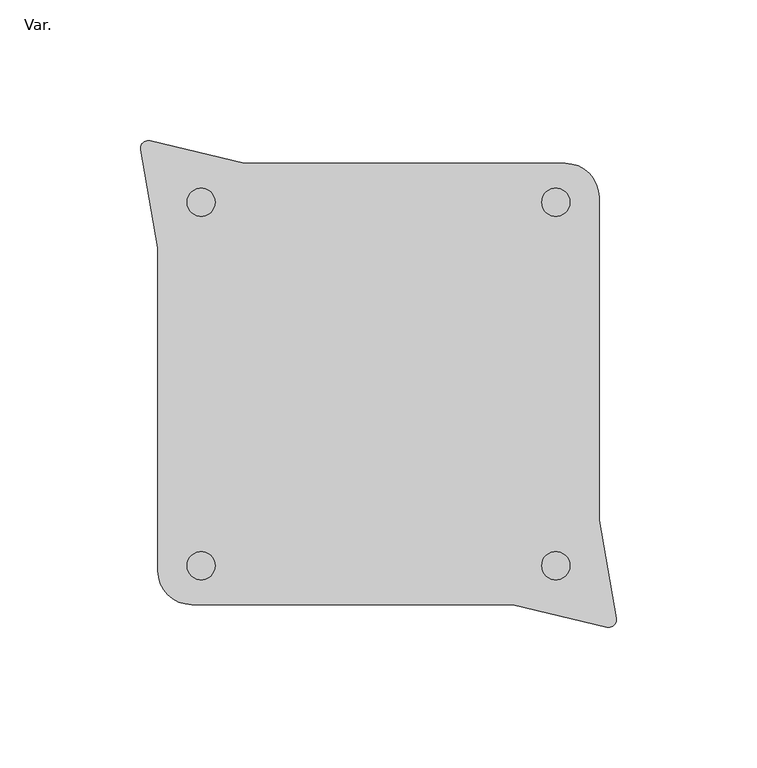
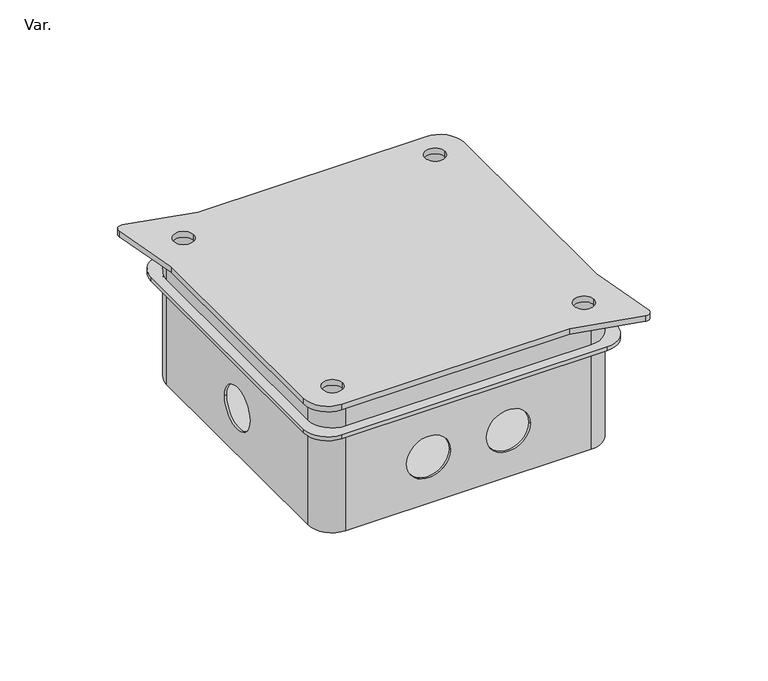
"""IFC4 building model written with IfcOpenShell, lengths in millimetres: cable carrier fitting geometry, PlastigamaWavin_Unionesdetubo_ConduitCaja15x15 : Var.."""

import ifcopenshell
import ifcopenshell.guid

model = None  # the IFC model being written
_history = None  # IfcOwnerHistory: only IFC2X3 demands one
_inside = {}  # id of a spatial element -> (the spatial element, [elements in it])
_under = {}  # id of a project, library or spatial element -> (it, [spatial elements below it])
_declared = {}  # id of a project -> (the project, [libraries it declares])
_typed = {}  # id of a type object -> (the type object, [elements of that type])
_made_of = {}  # id of a material, layer set ... -> (it, [elements and type objects made of it])


def new_model(schema):
    """Start an empty IFC model of exactly this schema.

    Asked for "IFC4X3", IfcOpenShell would pick the latest addendum, in which some entities
    have other attributes; the version numbers below select the first issue.
    IFC2X3 requires an IfcOwnerHistory on every rooted entity: one is made here for all.
    """
    global model, _history
    if schema == "IFC4X3":
        model = ifcopenshell.file(schema_version=(4, 3, 0, 0))
    else:
        model = ifcopenshell.file(schema=schema)
    _inside.clear()
    _under.clear()
    _declared.clear()
    _typed.clear()
    _made_of.clear()
    _history = None
    if model.schema == "IFC2X3":
        org = make("IfcOrganization", Name="unknown")
        user = make(
            "IfcPersonAndOrganization",
            ThePerson=make("IfcPerson", FamilyName="unknown"),
            TheOrganization=org,
        )
        app = make(
            "IfcApplication",
            ApplicationDeveloper=org,
            Version="unknown",
            ApplicationFullName="unknown",
            ApplicationIdentifier="unknown",
        )
        _history = make(
            "IfcOwnerHistory",
            OwningUser=user,
            OwningApplication=app,
            ChangeAction="ADDED",
            CreationDate=0,
        )
    return model


def make(cls, **values):
    """One entity of the class cls with the attributes given. An attribute that is None is left unset."""
    return model.create_entity(
        cls, **{name: value for name, value in values.items() if value is not None}
    )


def rooted(cls, **values):
    """An entity with a GlobalId (a new one), such as an element, a storey or a relation."""
    return make(cls, GlobalId=ifcopenshell.guid.new(), OwnerHistory=_history, **values)


def si_unit(unit_type, name, prefix=None):
    """IfcSIUnit, for example si_unit("LENGTHUNIT", "METRE", prefix="MILLI")."""
    return make("IfcSIUnit", UnitType=unit_type, Prefix=prefix, Name=name)


def assignment(units):
    """IfcUnitAssignment: the units of a project."""
    return None if units is None else make("IfcUnitAssignment", Units=units)


def point(xyz):
    """IfcCartesianPoint."""
    return None if xyz is None else make("IfcCartesianPoint", Coordinates=xyz)


def direction(xyz):
    """IfcDirection."""
    return None if xyz is None else make("IfcDirection", DirectionRatios=xyz)


def frame(location, z_axis=None, x_axis=None):
    """IfcAxis2Placement3D, a coordinate frame: its origin and axes. An axis left out is left unset."""
    return make(
        "IfcAxis2Placement3D",
        Location=point(location),
        Axis=direction(z_axis),
        RefDirection=direction(x_axis),
    )


def frame_2d(location, x_axis=None):
    """IfcAxis2Placement2D, a coordinate frame in the plane: its origin and x axis."""
    return make(
        "IfcAxis2Placement2D", Location=point(location), RefDirection=direction(x_axis)
    )


def origin():
    """The frame at (0, 0, 0) with its axes left unset."""
    return frame((0.0, 0.0, 0.0))


def place(relative_to, where):
    """IfcLocalPlacement: puts the frame where relative to a parent placement (None: the world)."""
    return make(
        "IfcLocalPlacement", PlacementRelTo=relative_to, RelativePlacement=where
    )


def context(
    kind, dimensions, precision=None, world=None, true_north=None, identifier=None
):
    """IfcGeometricRepresentationContext, for example the 3D "Model" context."""
    return make(
        "IfcGeometricRepresentationContext",
        ContextIdentifier=identifier,
        ContextType=kind,
        CoordinateSpaceDimension=dimensions,
        Precision=precision,
        WorldCoordinateSystem=world,
        TrueNorth=true_north,
    )


def project(units=None, contexts=None):
    """IfcProject with its units and contexts."""
    return rooted(
        "IfcProject",
        Name="project",
        RepresentationContexts=contexts,
        UnitsInContext=assignment(units),
    )


def spatial(cls, under=None, at=None, **own):
    """A site, building, storey or space (cls), placed at a placement, below another one or the project."""
    s = rooted(cls, ObjectPlacement=at, **own)
    if under is not None:
        _under.setdefault(under.id(), (under, []))[1].append(s)
    return s


def polyline(points):
    """IfcPolyline through the points."""
    return make("IfcPolyline", Points=[point(p) for p in points])


def circle_curve(where, radius):
    """IfcCircle in the frame where."""
    return make("IfcCircle", Position=where, Radius=radius)


def trimmed(basis, trim1, trim2, sense, master):
    """IfcTrimmedCurve: the piece of a basis curve between two trims."""
    return make(
        "IfcTrimmedCurve",
        BasisCurve=basis,
        Trim1=trim1,
        Trim2=trim2,
        SenseAgreement=sense,
        MasterRepresentation=master,
    )


def segment(curve, same_sense, transition):
    """IfcCompositeCurveSegment."""
    return make(
        "IfcCompositeCurveSegment",
        Transition=transition,
        SameSense=same_sense,
        ParentCurve=curve,
    )


def composite_curve(segments, self_intersect=None):
    """IfcCompositeCurve: segments joined end to end."""
    return make("IfcCompositeCurve", Segments=segments, SelfIntersect=self_intersect)


def outline(outer, holes=None, kind="AREA"):
    """IfcArbitraryClosedProfileDef: a profile drawn as a closed curve; with holes, ...WithVoids."""
    if holes is None:
        return make("IfcArbitraryClosedProfileDef", ProfileType=kind, OuterCurve=outer)
    return make(
        "IfcArbitraryProfileDefWithVoids",
        ProfileType=kind,
        OuterCurve=outer,
        InnerCurves=holes,
    )


def extrude(swept, where, along, depth):
    """IfcExtrudedAreaSolid: the profile swept, set in the frame where, extruded along a direction by depth."""
    return make(
        "IfcExtrudedAreaSolid",
        SweptArea=swept,
        Position=where,
        ExtrudedDirection=direction(along),
        Depth=depth,
    )


def shape(context_of_items, identifier, shape_type, items):
    """IfcShapeRepresentation: the items that make up one representation, for example the "Body"."""
    return make(
        "IfcShapeRepresentation",
        ContextOfItems=context_of_items,
        RepresentationIdentifier=identifier,
        RepresentationType=shape_type,
        Items=items,
    )


def source(mapping_origin, context_of_items, identifier, shape_type, items):
    """IfcRepresentationMap: a shape defined once, which mapped items show again and again."""
    return make(
        "IfcRepresentationMap",
        MappingOrigin=mapping_origin,
        MappedRepresentation=shape(context_of_items, identifier, shape_type, items),
    )


def transform(
    local_origin,
    x_axis=None,
    y_axis=None,
    z_axis=None,
    scale=None,
    scale2=None,
    scale3=None,
    uniform=True,
):
    """IfcCartesianTransformationOperator3D, or its non-uniform kind. x_axis, y_axis, z_axis: its Axis1, 2, 3."""
    if uniform:
        return make(
            "IfcCartesianTransformationOperator3D",
            Axis1=direction(x_axis),
            Axis2=direction(y_axis),
            LocalOrigin=point(local_origin),
            Scale=scale,
            Axis3=direction(z_axis),
        )
    return make(
        "IfcCartesianTransformationOperator3DnonUniform",
        Axis1=direction(x_axis),
        Axis2=direction(y_axis),
        LocalOrigin=point(local_origin),
        Scale=scale,
        Axis3=direction(z_axis),
        Scale2=scale2,
        Scale3=scale3,
    )


def mapped(mapping_source, mapping_target):
    """IfcMappedItem: shows the shape of a source again, moved by a transform."""
    return make(
        "IfcMappedItem", MappingSource=mapping_source, MappingTarget=mapping_target
    )


def made_of(thing, what):
    """Note that an element or type object is made of a material, layer set ...; save() writes the relation."""
    if what is not None:
        _made_of.setdefault(what.id(), (what, []))[1].append(thing)
    return thing


def element(
    cls,
    number,
    at=None,
    inside=None,
    cuts=None,
    type_object=None,
    material=None,
    context=None,
    identifier="Body",
    shape_type=None,
    held_by="IfcProductDefinitionShape",
    body=None,
    shapes=None,
    **own,
):
    """One element of the class cls, such as IfcWall. Its Tag is "e" and its number.

    at: its placement. inside: the storey or other place that contains it. cuts: it is an
    opening in that element (IfcRelVoidsElement). A single representation is given by context,
    identifier, shape_type and body (its items); several are given by shapes. held_by: the class
    of the entity that holds the representations. save() writes the other relations.
    """
    e = rooted(cls, Tag="e%d" % number, ObjectPlacement=at, **own)
    if body is not None:
        shapes = [shape(context, identifier, shape_type, body)]
    if shapes is not None:
        e.Representation = make(held_by, Representations=shapes)
    if inside is not None:
        _inside.setdefault(inside.id(), (inside, []))[1].append(e)
    if cuts is not None:
        rooted(
            "IfcRelVoidsElement", RelatingBuildingElement=cuts, RelatedOpeningElement=e
        )
    if type_object is not None:
        _typed.setdefault(type_object.id(), (type_object, []))[1].append(e)
    return made_of(e, material)


def aggregate(whole, parts):
    """IfcRelAggregates: a whole, such as a stair, and the parts it consists of."""
    return rooted("IfcRelAggregates", RelatingObject=whole, RelatedObjects=parts)


def save(model, path):
    """Write the relations noted so far, then the file.

    IfcRelAggregates (storeys below a building ...), IfcRelContainedInSpatialStructure (elements
    in a storey), IfcRelDefinesByType, IfcRelAssociatesMaterial and IfcRelDeclares: one each for
    every whole, place, type object, material and project.
    """
    for whole, parts in _under.values():
        aggregate(whole, parts)
    for where, things in _inside.values():
        rooted(
            "IfcRelContainedInSpatialStructure",
            RelatedElements=things,
            RelatingStructure=where,
        )
    for kind, things in _typed.values():
        rooted("IfcRelDefinesByType", RelatedObjects=things, RelatingType=kind)
    for what, things in _made_of.values():
        rooted("IfcRelAssociatesMaterial", RelatedObjects=things, RelatingMaterial=what)
    for by, libraries in _declared.values():
        rooted("IfcRelDeclares", RelatingContext=by, RelatedDefinitions=libraries)
    model.write(path)


def plane_surface(at):
    """IfcPlane: the flat surface through the origin of the frame at, square to its z axis."""
    return make("IfcPlane", Position=at)


def cylinder_surface(at, radius):
    """IfcCylindricalSurface: all points at the distance radius from the z axis of the frame at."""
    return make("IfcCylindricalSurface", Position=at, Radius=radius)


def revolved_surface(curve, axis_point, axis_direction):
    """IfcSurfaceOfRevolution: the curve turned about the line through axis_point along axis_direction."""
    return make(
        "IfcSurfaceOfRevolution",
        SweptCurve=make("IfcArbitraryOpenProfileDef", ProfileType="CURVE", Curve=curve),
        AxisPosition=make("IfcAxis1Placement", Location=point(axis_point), Axis=direction(axis_direction)),
    )


def advanced_brep(points, edges, surfaces, faces):
    """IfcAdvancedBrep: a solid bounded by faces that lie on surfaces and meet in shared edges.

    An edge is (start, end): straight between two places in points (the first is 0);
    or (start, end, curve); or (start, end, curve, False) where it runs against its curve.
    A face is (place in surfaces, loops), or (place, loops, False) where it looks against
    its surface's normal. A loop lists edges by number (the first is 1), with a minus sign
    where the edge is run from its end to its start. The first loop is the outer one.
    """
    corners = [point(p) for p in points]
    vertices = [make("IfcVertexPoint", VertexGeometry=c) for c in corners]
    made = []
    for start, end, *more in edges:
        made.append(
            make(
                "IfcEdgeCurve",
                EdgeStart=vertices[start],
                EdgeEnd=vertices[end],
                EdgeGeometry=more[0] if more else make("IfcPolyline", Points=[corners[start], corners[end]]),
                SameSense=more[1] if len(more) > 1 else True,
            )
        )
    hull = []
    for where, loops, *sense in faces:
        bounds = []
        for j, loop in enumerate(loops):
            ring = [make("IfcOrientedEdge", EdgeElement=made[abs(k) - 1], Orientation=k > 0) for k in loop]
            bounds.append(
                make(
                    "IfcFaceOuterBound" if j == 0 else "IfcFaceBound",
                    Bound=make("IfcEdgeLoop", EdgeList=ring),
                    Orientation=True,
                )
            )
        hull.append(make("IfcAdvancedFace", Bounds=bounds, FaceSurface=surfaces[where], SameSense=sense[0] if sense else True))
    return make("IfcAdvancedBrep", Outer=make("IfcClosedShell", CfsFaces=hull))


def var_ab9e230f(model_context):
    return source(origin(), model_context, "Body", "SolidModel", [
        extrude(outline(composite_curve([segment(trimmed(circle_curve(frame_2d((-18.8890085, 19.3604078)), 3.0), [point((-21.8890085, 19.3604078))], [point((-15.8890085, 19.3604078))], False, "CARTESIAN"), True, "CONTINUOUS"), segment(trimmed(circle_curve(frame_2d((-18.8890085, 19.3604078)), 3.0), [point((-15.8890085, 19.3604078))], [point((-21.8890085, 19.3604078))], False, "CARTESIAN"), True, "CONTINUOUS")], self_intersect=False)), frame((0.0, 0.0, -29.1782439), z_axis=(0.0, 0.0, 1.0), x_axis=(1.0, 0.0, 0.0)), (0.0, 0.0, 1.0), 2.4282439),
        extrude(outline(composite_curve([segment(trimmed(circle_curve(frame_2d((18.8890085, 19.3604078)), 3.0), [point((15.8890085, 19.3604078))], [point((21.8890085, 19.3604078))], False, "CARTESIAN"), True, "CONTINUOUS"), segment(trimmed(circle_curve(frame_2d((18.8890085, 19.3604078)), 3.0), [point((21.8890085, 19.3604078))], [point((15.8890085, 19.3604078))], False, "CARTESIAN"), True, "CONTINUOUS")], self_intersect=False)), frame((0.0, 0.0, -29.1782439), z_axis=(0.0, 0.0, 1.0), x_axis=(1.0, 0.0, 0.0)), (0.0, 0.0, 1.0), 2.4282439),
        extrude(outline(composite_curve([segment(trimmed(circle_curve(frame_2d((18.8890085, -19.3604078)), 3.0), [point((15.8890085, -19.3604078))], [point((21.8890085, -19.3604078))], False, "CARTESIAN"), True, "CONTINUOUS"), segment(trimmed(circle_curve(frame_2d((18.8890085, -19.3604078)), 3.0), [point((21.8890085, -19.3604078))], [point((15.8890085, -19.3604078))], False, "CARTESIAN"), True, "CONTINUOUS")], self_intersect=False)), frame((0.0, 0.0, -29.1782439), z_axis=(0.0, 0.0, 1.0), x_axis=(1.0, 0.0, 0.0)), (0.0, 0.0, 1.0), 2.4282439),
        extrude(outline(composite_curve([segment(trimmed(circle_curve(frame_2d((-18.8890085, -19.3604078)), 3.0), [point((-21.8890085, -19.3604078))], [point((-15.8890085, -19.3604078))], False, "CARTESIAN"), True, "CONTINUOUS"), segment(trimmed(circle_curve(frame_2d((-18.8890085, -19.3604078)), 3.0), [point((-15.8890085, -19.3604078))], [point((-21.8890085, -19.3604078))], False, "CARTESIAN"), True, "CONTINUOUS")], self_intersect=False)), frame((0.0, 0.0, -29.1782439), z_axis=(0.0, 0.0, 1.0), x_axis=(1.0, 0.0, 0.0)), (0.0, 0.0, 1.0), 2.4282439),
        extrude(outline(composite_curve([segment(trimmed(circle_curve(frame_2d((-49.8162134, 50.583946)), 7.5), [point((-57.3162134, 50.583946))], [point((-42.3162134, 50.583946))], False, "CARTESIAN"), True, "CONTINUOUS"), segment(trimmed(circle_curve(frame_2d((-49.8162134, 50.583946)), 7.5), [point((-42.3162134, 50.583946))], [point((-57.3162134, 50.583946))], False, "CARTESIAN"), True, "CONTINUOUS")], self_intersect=False)), frame((0.0, 0.0, -29.1782439), z_axis=(0.0, 0.0, 1.0), x_axis=(1.0, 0.0, 0.0)), (0.0, 0.0, 1.0), 2.4282439),
        extrude(outline(composite_curve([segment(trimmed(circle_curve(frame_2d((49.8162134, 50.583946)), 7.5), [point((42.3162134, 50.583946))], [point((57.3162134, 50.583946))], False, "CARTESIAN"), True, "CONTINUOUS"), segment(trimmed(circle_curve(frame_2d((49.8162134, 50.583946)), 7.5), [point((57.3162134, 50.583946))], [point((42.3162134, 50.583946))], False, "CARTESIAN"), True, "CONTINUOUS")], self_intersect=False)), frame((0.0, 0.0, -29.1782439), z_axis=(0.0, 0.0, 1.0), x_axis=(1.0, 0.0, 0.0)), (0.0, 0.0, 1.0), 2.4282439),
        extrude(outline(composite_curve([segment(trimmed(circle_curve(frame_2d((49.8162134, -50.583946)), 7.5), [point((42.3162134, -50.583946))], [point((57.3162134, -50.583946))], False, "CARTESIAN"), True, "CONTINUOUS"), segment(trimmed(circle_curve(frame_2d((49.8162134, -50.583946)), 7.5), [point((57.3162134, -50.583946))], [point((42.3162134, -50.583946))], False, "CARTESIAN"), True, "CONTINUOUS")], self_intersect=False)), frame((0.0, 0.0, -29.1782439), z_axis=(0.0, 0.0, 1.0), x_axis=(1.0, 0.0, 0.0)), (0.0, 0.0, 1.0), 2.4282439),
        extrude(outline(composite_curve([segment(trimmed(circle_curve(frame_2d((-49.8162134, -50.583946)), 7.5), [point((-57.3162134, -50.583946))], [point((-42.3162134, -50.583946))], False, "CARTESIAN"), True, "CONTINUOUS"), segment(trimmed(circle_curve(frame_2d((-49.8162134, -50.583946)), 7.5), [point((-42.3162134, -50.583946))], [point((-57.3162134, -50.583946))], False, "CARTESIAN"), True, "CONTINUOUS")], self_intersect=False)), frame((0.0, 0.0, -29.1782439), z_axis=(0.0, 0.0, 1.0), x_axis=(1.0, 0.0, 0.0)), (0.0, 0.0, 1.0), 2.4282439),
        extrude(outline(composite_curve([segment(trimmed(circle_curve(frame_2d((0.0, 61.27426)), 3.0), [point((-3.0, 61.27426))], [point((3.0, 61.27426))], False, "CARTESIAN"), True, "CONTINUOUS"), segment(trimmed(circle_curve(frame_2d((0.0, 61.27426)), 3.0), [point((3.0, 61.27426))], [point((-3.0, 61.27426))], False, "CARTESIAN"), True, "CONTINUOUS")], self_intersect=False)), frame((0.0, 0.0, -29.1782439), z_axis=(0.0, 0.0, 1.0), x_axis=(1.0, 0.0, 0.0)), (0.0, 0.0, 1.0), 2.4282439),
        extrude(outline(composite_curve([segment(trimmed(circle_curve(frame_2d((0.0, -61.27426)), 3.0), [point((-3.0, -61.27426))], [point((3.0, -61.27426))], False, "CARTESIAN"), True, "CONTINUOUS"), segment(trimmed(circle_curve(frame_2d((0.0, -61.27426)), 3.0), [point((3.0, -61.27426))], [point((-3.0, -61.27426))], False, "CARTESIAN"), True, "CONTINUOUS")], self_intersect=False)), frame((0.0, 0.0, -29.1782439), z_axis=(0.0, 0.0, 1.0), x_axis=(1.0, 0.0, 0.0)), (0.0, 0.0, 1.0), 2.4282439),
        extrude(outline(composite_curve([segment(trimmed(circle_curve(frame_2d((65.7085992, 0.0)), 3.0), [point((62.7085992, 0.0))], [point((68.7085992, 0.0))], False, "CARTESIAN"), True, "CONTINUOUS"), segment(trimmed(circle_curve(frame_2d((65.7085992, 0.0)), 3.0), [point((68.7085992, 0.0))], [point((62.7085992, 0.0))], False, "CARTESIAN"), True, "CONTINUOUS")], self_intersect=False)), frame((0.0, 0.0, -29.1782439), z_axis=(0.0, 0.0, 1.0), x_axis=(1.0, 0.0, 0.0)), (0.0, 0.0, 1.0), 2.4282439),
        extrude(outline(composite_curve([segment(trimmed(circle_curve(frame_2d((-65.7085992, 0.0)), 3.0), [point((-68.7085992, 0.0))], [point((-62.7085992, 0.0))], False, "CARTESIAN"), True, "CONTINUOUS"), segment(trimmed(circle_curve(frame_2d((-65.7085992, 0.0)), 3.0), [point((-62.7085992, 0.0))], [point((-68.7085992, 0.0))], False, "CARTESIAN"), True, "CONTINUOUS")], self_intersect=False)), frame((0.0, 0.0, -29.1782439), z_axis=(0.0, 0.0, 1.0), x_axis=(1.0, 0.0, 0.0)), (0.0, 0.0, 1.0), 2.4282439),
        extrude(outline(composite_curve([segment(polyline([(-78.5, -66.5), (-78.5, 48.5), (-84.6367016, 83.3029642)]), True, "CONTINUOUS"), segment(trimmed(circle_curve(frame_2d((-81.8320703, 83.7974964)), 2.8478972), [point((-84.6367016, 83.3029642))], [point((-81.162412, 86.565542))], False, "CARTESIAN"), True, "CONTINUOUS"), segment(polyline([(-81.162412, 86.565542), (-47.8233371, 78.5), (66.5, 78.5)]), True, "CONTINUOUS"), segment(trimmed(circle_curve(frame_2d((66.5, 66.5)), 12.0), [point((66.5, 78.5))], [point((78.5, 66.5))], False, "CARTESIAN"), True, "CONTINUOUS"), segment(polyline([(78.5, 66.5), (78.5, -48.5), (84.6367016, -83.3029642)]), True, "CONTINUOUS"), segment(trimmed(circle_curve(frame_2d((81.8320703, -83.7974964)), 2.8478972), [point((84.6367016, -83.3029642))], [point((81.162412, -86.565542))], False, "CARTESIAN"), True, "CONTINUOUS"), segment(polyline([(81.162412, -86.565542), (47.8233371, -78.5), (-66.5, -78.5)]), True, "CONTINUOUS"), segment(trimmed(circle_curve(frame_2d((-66.5, -66.5)), 12.0), [point((-66.5, -78.5))], [point((-78.5, -66.5))], False, "CARTESIAN"), True, "CONTINUOUS")], self_intersect=False), holes=[composite_curve([segment(trimmed(circle_curve(frame_2d((-63.1079534, 64.6701072)), 5.0), [point((-68.1079534, 64.6701072))], [point((-58.1079534, 64.6701072))], True, "CARTESIAN"), True, "CONTINUOUS"), segment(trimmed(circle_curve(frame_2d((-63.1079534, 64.6701072)), 5.0), [point((-58.1079534, 64.6701072))], [point((-68.1079534, 64.6701072))], True, "CARTESIAN"), True, "CONTINUOUS")], self_intersect=False), composite_curve([segment(trimmed(circle_curve(frame_2d((63.1079534, 64.6701072)), 5.0), [point((58.1079534, 64.6701072))], [point((68.1079534, 64.6701072))], True, "CARTESIAN"), True, "CONTINUOUS"), segment(trimmed(circle_curve(frame_2d((63.1079534, 64.6701072)), 5.0), [point((68.1079534, 64.6701072))], [point((58.1079534, 64.6701072))], True, "CARTESIAN"), True, "CONTINUOUS")], self_intersect=False), composite_curve([segment(trimmed(circle_curve(frame_2d((63.1079534, -64.6701072)), 5.0), [point((58.1079534, -64.6701072))], [point((68.1079534, -64.6701072))], True, "CARTESIAN"), True, "CONTINUOUS"), segment(trimmed(circle_curve(frame_2d((63.1079534, -64.6701072)), 5.0), [point((68.1079534, -64.6701072))], [point((58.1079534, -64.6701072))], True, "CARTESIAN"), True, "CONTINUOUS")], self_intersect=False), composite_curve([segment(trimmed(circle_curve(frame_2d((-63.1079534, -64.6701072)), 5.0), [point((-68.1079534, -64.6701072))], [point((-58.1079534, -64.6701072))], True, "CARTESIAN"), True, "CONTINUOUS"), segment(trimmed(circle_curve(frame_2d((-63.1079534, -64.6701072)), 5.0), [point((-58.1079534, -64.6701072))], [point((-68.1079534, -64.6701072))], True, "CARTESIAN"), True, "CONTINUOUS")], self_intersect=False)]), frame((0.0, 0.0, 42.05), z_axis=(0.0, 0.0, 1.0), x_axis=(1.0, 0.0, 0.0)), (0.0, 0.0, 1.0), 3.0),
        extrude(outline(composite_curve([segment(polyline([(-73.5, -61.5), (-73.5, 61.5)]), True, "CONTINUOUS"), segment(trimmed(circle_curve(frame_2d((-61.5, 61.5)), 12.0), [point((-73.5, 61.5))], [point((-61.5, 73.5))], False, "CARTESIAN"), True, "CONTINUOUS"), segment(polyline([(-61.5, 73.5), (61.5, 73.5)]), True, "CONTINUOUS"), segment(trimmed(circle_curve(frame_2d((61.5, 61.5)), 12.0), [point((61.5, 73.5))], [point((73.5, 61.5))], False, "CARTESIAN"), True, "CONTINUOUS"), segment(polyline([(73.5, 61.5), (73.5, -61.5)]), True, "CONTINUOUS"), segment(trimmed(circle_curve(frame_2d((61.5, -61.5)), 12.0), [point((73.5, -61.5))], [point((61.5, -73.5))], False, "CARTESIAN"), True, "CONTINUOUS"), segment(polyline([(61.5, -73.5), (-61.5, -73.5)]), True, "CONTINUOUS"), segment(trimmed(circle_curve(frame_2d((-61.5, -61.5)), 12.0), [point((-61.5, -73.5))], [point((-73.5, -61.5))], False, "CARTESIAN"), True, "CONTINUOUS")], self_intersect=False), holes=[composite_curve([segment(trimmed(circle_curve(frame_2d((-63.1079534, 64.6701072)), 5.0), [point((-68.1079534, 64.6701072))], [point((-58.1079534, 64.6701072))], True, "CARTESIAN"), True, "CONTINUOUS"), segment(trimmed(circle_curve(frame_2d((-63.1079534, 64.6701072)), 5.0), [point((-58.1079534, 64.6701072))], [point((-68.1079534, 64.6701072))], True, "CARTESIAN"), True, "CONTINUOUS")], self_intersect=False), composite_curve([segment(trimmed(circle_curve(frame_2d((63.1079534, 64.6701072)), 5.0), [point((58.1079534, 64.6701072))], [point((68.1079534, 64.6701072))], True, "CARTESIAN"), True, "CONTINUOUS"), segment(trimmed(circle_curve(frame_2d((63.1079534, 64.6701072)), 5.0), [point((68.1079534, 64.6701072))], [point((58.1079534, 64.6701072))], True, "CARTESIAN"), True, "CONTINUOUS")], self_intersect=False), composite_curve([segment(trimmed(circle_curve(frame_2d((63.1079534, -64.6701072)), 5.0), [point((58.1079534, -64.6701072))], [point((68.1079534, -64.6701072))], True, "CARTESIAN"), True, "CONTINUOUS"), segment(trimmed(circle_curve(frame_2d((63.1079534, -64.6701072)), 5.0), [point((68.1079534, -64.6701072))], [point((58.1079534, -64.6701072))], True, "CARTESIAN"), True, "CONTINUOUS")], self_intersect=False), composite_curve([segment(trimmed(circle_curve(frame_2d((-63.1079534, -64.6701072)), 5.0), [point((-68.1079534, -64.6701072))], [point((-58.1079534, -64.6701072))], True, "CARTESIAN"), True, "CONTINUOUS"), segment(trimmed(circle_curve(frame_2d((-63.1079534, -64.6701072)), 5.0), [point((-58.1079534, -64.6701072))], [point((-68.1079534, -64.6701072))], True, "CARTESIAN"), True, "CONTINUOUS")], self_intersect=False)]), frame((0.0, 0.0, 28.75), z_axis=(0.0, 0.0, 1.0), x_axis=(1.0, 0.0, 0.0)), (0.0, 0.0, 1.0), 13.3),
        extrude(outline(composite_curve([segment(polyline([(-78.5, -66.5), (-78.5, 66.5)]), True, "CONTINUOUS"), segment(trimmed(circle_curve(frame_2d((-66.5, 66.5)), 12.0), [point((-78.5, 66.5))], [point((-66.5, 78.5))], False, "CARTESIAN"), True, "CONTINUOUS"), segment(polyline([(-66.5, 78.5), (66.5, 78.5)]), True, "CONTINUOUS"), segment(trimmed(circle_curve(frame_2d((66.5, 66.5)), 12.0), [point((66.5, 78.5))], [point((78.5, 66.5))], False, "CARTESIAN"), True, "CONTINUOUS"), segment(polyline([(78.5, 66.5), (78.5, -66.5)]), True, "CONTINUOUS"), segment(trimmed(circle_curve(frame_2d((66.5, -66.5)), 12.0), [point((78.5, -66.5))], [point((66.5, -78.5))], False, "CARTESIAN"), True, "CONTINUOUS"), segment(polyline([(66.5, -78.5), (-66.5, -78.5)]), True, "CONTINUOUS"), segment(trimmed(circle_curve(frame_2d((-66.5, -66.5)), 12.0), [point((-66.5, -78.5))], [point((-78.5, -66.5))], False, "CARTESIAN"), True, "CONTINUOUS")], self_intersect=False), holes=[composite_curve([segment(trimmed(circle_curve(frame_2d((-60.5, -60.5)), 12.0), [point((-72.5, -60.5))], [point((-60.5, -72.5))], True, "CARTESIAN"), True, "CONTINUOUS"), segment(polyline([(-60.5, -72.5), (60.5, -72.5)]), True, "CONTINUOUS"), segment(trimmed(circle_curve(frame_2d((60.5, -60.5)), 12.0), [point((60.5, -72.5))], [point((72.5, -60.5))], True, "CARTESIAN"), True, "CONTINUOUS"), segment(polyline([(72.5, -60.5), (72.5, 60.5)]), True, "CONTINUOUS"), segment(trimmed(circle_curve(frame_2d((60.5, 60.5)), 12.0), [point((72.5, 60.5))], [point((60.5, 72.5))], True, "CARTESIAN"), True, "CONTINUOUS"), segment(polyline([(60.5, 72.5), (-60.5, 72.5)]), True, "CONTINUOUS"), segment(trimmed(circle_curve(frame_2d((-60.5, 60.5)), 12.0), [point((-60.5, 72.5))], [point((-72.5, 60.5))], True, "CARTESIAN"), True, "CONTINUOUS"), segment(polyline([(-72.5, 60.5), (-72.5, -60.5)]), True, "CONTINUOUS")], self_intersect=False)]), frame((0.0, 0.0, 26.75), z_axis=(0.0, 0.0, 1.0), x_axis=(1.0, 0.0, 0.0)), (0.0, 0.0, 1.0), 2.0),
        advanced_brep(
        [(-73.5, -61.5, 26.75), (-61.5, -73.5, 26.75), (61.5, -73.5, 26.75), (73.5, -61.5, 26.75), (73.5, 61.5, 26.75), (61.5, 73.5, 26.75), (-61.5, 73.5, 26.75), (-73.5, 61.5, 26.75), (-60.5, -72.5, 26.75), (-72.5, -60.5, 26.75), (-72.5, 60.5, 26.75), (-60.5, 72.5, 26.75), (60.5, 72.5, 26.75), (72.5, 60.5, 26.75), (72.5, -60.5, 26.75), (60.5, -72.5, 26.75), (-73.5, -61.5, -26.75), (-73.5, 61.5, -26.75), (-61.5, 73.5, -26.75), (61.5, 73.5, -26.75), (73.5, 61.5, -26.75), (73.5, -61.5, -26.75), (61.5, -73.5, -26.75), (-61.5, -73.5, -26.75), (-9.0, -73.5, -2.25), (-31.0, -73.5, -2.25), (31.0, -73.5, -2.25), (9.0, -73.5, -2.25), (73.5, -9.0, -2.25), (73.5, -31.0, -2.25), (73.5, 31.0, -2.25), (73.5, 9.0, -2.25), (-31.0, 73.5, -2.25), (-9.0, 73.5, -2.25), (9.0, 73.5, -2.25), (31.0, 73.5, -2.25), (-73.5, -11.0, -2.25), (-73.5, 11.0, -2.25), (-9.0, -72.5, -2.25), (-31.0, -72.5, -2.25), (-31.0, 72.5, -2.25), (-9.0, 72.5, -2.25), (31.0, -72.5, -2.25), (9.0, -72.5, -2.25), (9.0, 72.5, -2.25), (31.0, 72.5, -2.25), (72.5, -9.0, -2.25), (72.5, -31.0, -2.25), (72.5, 31.0, -2.25), (72.5, 9.0, -2.25), (-72.5, -11.0, -2.25), (-72.5, 11.0, -2.25), (-72.5, -60.5, -21.9228372), (-60.5, -72.5, -21.9228372), (60.5, -72.5, -21.9228372), (72.5, -60.5, -21.9228372), (72.5, 60.5, -21.9228372), (60.5, 72.5, -21.9228372), (-60.5, 72.5, -21.9228372), (-72.5, 60.5, -21.9228372)],
        [
            (0, 1, circle_curve(frame((-61.5, -61.5, 26.75), z_axis=(0.0, 0.0, 1.0), x_axis=(1.0, 0.0, 0.0)), 12.0)),
            (1, 2),
            (2, 3, circle_curve(frame((61.5, -61.5, 26.75), z_axis=(0.0, 0.0, 1.0), x_axis=(1.0, 0.0, 0.0)), 12.0)),
            (3, 4),
            (4, 5, circle_curve(frame((61.5, 61.5, 26.75), z_axis=(0.0, 0.0, 1.0), x_axis=(1.0, 0.0, 0.0)), 12.0)),
            (5, 6),
            (6, 7, circle_curve(frame((-61.5, 61.5, 26.75), z_axis=(0.0, 0.0, 1.0), x_axis=(1.0, 0.0, 0.0)), 12.0)),
            (7, 0),
            (8, 9, circle_curve(frame((-60.5, -60.5, 26.75), z_axis=(0.0, 0.0, -1.0), x_axis=(1.0, 0.0, 0.0)), 12.0)),
            (9, 10),
            (10, 11, circle_curve(frame((-60.5, 60.5, 26.75), z_axis=(0.0, 0.0, -1.0), x_axis=(1.0, 0.0, 0.0)), 12.0)),
            (11, 12),
            (12, 13, circle_curve(frame((60.5, 60.5, 26.75), z_axis=(0.0, 0.0, -1.0), x_axis=(1.0, 0.0, 0.0)), 12.0)),
            (13, 14),
            (14, 15, circle_curve(frame((60.5, -60.5, 26.75), z_axis=(0.0, 0.0, -1.0), x_axis=(1.0, 0.0, 0.0)), 12.0)),
            (15, 8),
            (16, 17),
            (17, 18, circle_curve(frame((-61.5, 61.5, -26.75), z_axis=(0.0, 0.0, -1.0), x_axis=(1.0, 0.0, 0.0)), 12.0)),
            (18, 19),
            (19, 20, circle_curve(frame((61.5, 61.5, -26.75), z_axis=(0.0, 0.0, -1.0), x_axis=(1.0, 0.0, 0.0)), 12.0)),
            (20, 21),
            (21, 22, circle_curve(frame((61.5, -61.5, -26.75), z_axis=(0.0, 0.0, -1.0), x_axis=(1.0, 0.0, 0.0)), 12.0)),
            (22, 23),
            (23, 16, circle_curve(frame((-61.5, -61.5, -26.75), z_axis=(0.0, 0.0, -1.0), x_axis=(1.0, 0.0, 0.0)), 12.0)),
            (0, 16),
            (23, 1),
            (22, 2),
            (24, 25, circle_curve(frame((-20.0, -73.5, -2.25), z_axis=(0.0, 1.0, 0.0), x_axis=(1.0, 0.0, 0.0)), 11.0)),
            (25, 24, circle_curve(frame((-20.0, -73.5, -2.25), z_axis=(0.0, 1.0, 0.0), x_axis=(1.0, 0.0, 0.0)), 11.0)),
            (26, 27, circle_curve(frame((20.0, -73.5, -2.25), z_axis=(0.0, 1.0, 0.0), x_axis=(1.0, 0.0, 0.0)), 11.0)),
            (27, 26, circle_curve(frame((20.0, -73.5, -2.25), z_axis=(0.0, 1.0, 0.0), x_axis=(1.0, 0.0, 0.0)), 11.0)),
            (21, 3),
            (20, 4),
            (28, 29, circle_curve(frame((73.5, -20.0, -2.25), z_axis=(-1.0, 0.0, 0.0), x_axis=(0.0, 1.0, 0.0)), 11.0)),
            (29, 28, circle_curve(frame((73.5, -20.0, -2.25), z_axis=(-1.0, 0.0, 0.0), x_axis=(0.0, 1.0, 0.0)), 11.0)),
            (30, 31, circle_curve(frame((73.5, 20.0, -2.25), z_axis=(-1.0, 0.0, 0.0), x_axis=(0.0, 1.0, 0.0)), 11.0)),
            (31, 30, circle_curve(frame((73.5, 20.0, -2.25), z_axis=(-1.0, 0.0, 0.0), x_axis=(0.0, 1.0, 0.0)), 11.0)),
            (19, 5),
            (18, 6),
            (32, 33, circle_curve(frame((-20.0, 73.5, -2.25), z_axis=(0.0, -1.0, 0.0), x_axis=(1.0, 0.0, 0.0)), 11.0)),
            (33, 32, circle_curve(frame((-20.0, 73.5, -2.25), z_axis=(0.0, -1.0, 0.0), x_axis=(1.0, 0.0, 0.0)), 11.0)),
            (34, 35, circle_curve(frame((20.0, 73.5, -2.25), z_axis=(0.0, -1.0, 0.0), x_axis=(1.0, 0.0, 0.0)), 11.0)),
            (35, 34, circle_curve(frame((20.0, 73.5, -2.25), z_axis=(0.0, -1.0, 0.0), x_axis=(1.0, 0.0, 0.0)), 11.0)),
            (17, 7),
            (36, 37, circle_curve(frame((-73.5, 0.0, -2.25), z_axis=(1.0, 0.0, 0.0), x_axis=(0.0, 1.0, 0.0)), 11.0)),
            (37, 36, circle_curve(frame((-73.5, 0.0, -2.25), z_axis=(1.0, 0.0, 0.0), x_axis=(0.0, 1.0, 0.0)), 11.0)),
            (24, 38),
            (38, 39, circle_curve(frame((-20.0, -72.5, -2.25), z_axis=(0.0, 1.0, 0.0), x_axis=(1.0, 0.0, 0.0)), 11.0)),
            (39, 25),
            (32, 40),
            (40, 41, circle_curve(frame((-20.0, 72.5, -2.25), z_axis=(0.0, -1.0, 0.0), x_axis=(1.0, 0.0, 0.0)), 11.0)),
            (41, 33),
            (39, 38, circle_curve(frame((-20.0, -72.5, -2.25), z_axis=(0.0, 1.0, 0.0), x_axis=(1.0, 0.0, 0.0)), 11.0)),
            (41, 40, circle_curve(frame((-20.0, 72.5, -2.25), z_axis=(0.0, -1.0, 0.0), x_axis=(1.0, 0.0, 0.0)), 11.0)),
            (26, 42),
            (42, 43, circle_curve(frame((20.0, -72.5, -2.25), z_axis=(0.0, 1.0, 0.0), x_axis=(1.0, 0.0, 0.0)), 11.0)),
            (43, 27),
            (34, 44),
            (44, 45, circle_curve(frame((20.0, 72.5, -2.25), z_axis=(0.0, -1.0, 0.0), x_axis=(1.0, 0.0, 0.0)), 11.0)),
            (45, 35),
            (43, 42, circle_curve(frame((20.0, -72.5, -2.25), z_axis=(0.0, 1.0, 0.0), x_axis=(1.0, 0.0, 0.0)), 11.0)),
            (45, 44, circle_curve(frame((20.0, 72.5, -2.25), z_axis=(0.0, -1.0, 0.0), x_axis=(1.0, 0.0, 0.0)), 11.0)),
            (28, 46),
            (46, 47, circle_curve(frame((72.5, -20.0, -2.25), z_axis=(-1.0, 0.0, 0.0), x_axis=(0.0, 1.0, 0.0)), 11.0)),
            (47, 29),
            (47, 46, circle_curve(frame((72.5, -20.0, -2.25), z_axis=(-1.0, 0.0, 0.0), x_axis=(0.0, 1.0, 0.0)), 11.0)),
            (30, 48),
            (48, 49, circle_curve(frame((72.5, 20.0, -2.25), z_axis=(-1.0, 0.0, 0.0), x_axis=(0.0, 1.0, 0.0)), 11.0)),
            (49, 31),
            (49, 48, circle_curve(frame((72.5, 20.0, -2.25), z_axis=(-1.0, 0.0, 0.0), x_axis=(0.0, 1.0, 0.0)), 11.0)),
            (36, 50),
            (50, 51, circle_curve(frame((-72.5, 0.0, -2.25), z_axis=(1.0, 0.0, 0.0), x_axis=(0.0, 1.0, 0.0)), 11.0)),
            (51, 37),
            (51, 50, circle_curve(frame((-72.5, 0.0, -2.25), z_axis=(1.0, 0.0, 0.0), x_axis=(0.0, 1.0, 0.0)), 11.0)),
            (52, 53, circle_curve(frame((-60.5, -60.5, -21.9228372), z_axis=(0.0, 0.0, 1.0), x_axis=(1.0, 0.0, 0.0)), 12.0)),
            (53, 54),
            (54, 55, circle_curve(frame((60.5, -60.5, -21.9228372), z_axis=(0.0, 0.0, 1.0), x_axis=(1.0, 0.0, 0.0)), 12.0)),
            (55, 56),
            (56, 57, circle_curve(frame((60.5, 60.5, -21.9228372), z_axis=(0.0, 0.0, 1.0), x_axis=(1.0, 0.0, 0.0)), 12.0)),
            (57, 58),
            (58, 59, circle_curve(frame((-60.5, 60.5, -21.9228372), z_axis=(0.0, 0.0, 1.0), x_axis=(1.0, 0.0, 0.0)), 12.0)),
            (59, 52),
            (52, 9),
            (8, 53),
            (15, 54),
            (14, 55),
            (13, 56),
            (12, 57),
            (11, 58),
            (10, 59),
        ],
        [
            plane_surface(frame((-49.5, -61.5, 26.75), z_axis=(0.0, 0.0, 1.0), x_axis=(0.0, 1.0, 0.0))),
            plane_surface(frame((-49.5, -61.5, -26.75), z_axis=(0.0, 0.0, -1.0), x_axis=(0.0, -1.0, 0.0))),
            cylinder_surface(frame((-61.5, -61.5, -26.75), z_axis=(0.0, 0.0, 1.0), x_axis=(1.0, 0.0, 0.0)), 12.0),
            plane_surface(frame((-61.5, -73.5, 26.75), z_axis=(0.0, -1.0, 0.0), x_axis=(0.0, 0.0, -1.0))),
            cylinder_surface(frame((61.5, -61.5, -26.75), z_axis=(0.0, 0.0, 1.0), x_axis=(1.0, 0.0, 0.0)), 12.0),
            plane_surface(frame((73.5, -61.5, 26.75), z_axis=(1.0, 0.0, 0.0), x_axis=(0.0, 0.0, -1.0))),
            cylinder_surface(frame((61.5, 61.5, -26.75), z_axis=(0.0, 0.0, 1.0), x_axis=(1.0, 0.0, 0.0)), 12.0),
            plane_surface(frame((61.5, 73.5, 26.75), z_axis=(0.0, 1.0, 0.0), x_axis=(0.0, 0.0, -1.0))),
            cylinder_surface(frame((-61.5, 61.5, -26.75), z_axis=(0.0, 0.0, 1.0), x_axis=(1.0, 0.0, 0.0)), 12.0),
            plane_surface(frame((-73.5, 61.5, 26.75), z_axis=(-1.0, 0.0, 0.0), x_axis=(0.0, 0.0, -1.0))),
            revolved_surface(polyline([(-9.0, -73.5, -2.25), (-9.0, -72.5, -2.25)]), (-20.0, 73.5, -2.25), (0.0, -1.0, 0.0)),
            revolved_surface(polyline([(-9.0, 72.5, -2.25), (-9.0, 73.5, -2.25)]), (-20.0, 73.5, -2.25), (0.0, -1.0, 0.0)),
            revolved_surface(polyline([(31.0, -73.5, -2.25), (31.0, -72.5, -2.25)]), (20.0, 0.0, -2.25), (0.0, -1.0, 0.0)),
            revolved_surface(polyline([(31.0, 72.5, -2.25), (31.0, 73.5, -2.25)]), (20.0, 0.0, -2.25), (0.0, -1.0, 0.0)),
            revolved_surface(polyline([(73.5, -9.0, -2.25), (72.5, -9.0, -2.25)]), (0.0, -20.0, -2.25), (1.0, 0.0, 0.0)),
            revolved_surface(polyline([(73.5, 31.0, -2.25), (72.5, 31.0, -2.25)]), (0.0, 20.0, -2.25), (1.0, 0.0, 0.0)),
            revolved_surface(polyline([(-72.5, 11.0, -2.25), (-73.5, 11.0, -2.25)]), (-73.5, 0.0, -2.25), (1.0, 0.0, 0.0)),
            plane_surface(frame((-48.5, -60.5, -21.9228372), z_axis=(0.0, 0.0, 1.0), x_axis=(0.0, -1.0, 0.0))),
            revolved_surface(polyline([(-48.5, -60.5, 26.750000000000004), (-48.5, -60.5, -21.9228372)]), (-60.5, -60.5, -21.9228372), (0.0, 0.0, 1.0)),
            plane_surface(frame((-60.5, -72.5, 28.75), z_axis=(0.0, 1.0, 0.0), x_axis=(0.0, 0.0, -1.0))),
            revolved_surface(polyline([(72.5, -60.5, 26.750000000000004), (72.5, -60.5, -21.9228372)]), (60.5, -60.5, -21.9228372), (0.0, 0.0, 1.0)),
            plane_surface(frame((72.5, -60.5, 28.75), z_axis=(-1.0, 0.0, 0.0), x_axis=(0.0, 0.0, -1.0))),
            revolved_surface(polyline([(72.5, 60.5, 26.750000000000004), (72.5, 60.5, -21.9228372)]), (60.5, 60.5, -21.9228372), (0.0, 0.0, 1.0)),
            plane_surface(frame((60.5, 72.5, 28.75), z_axis=(0.0, -1.0, 0.0), x_axis=(0.0, 0.0, -1.0))),
            revolved_surface(polyline([(-48.5, 60.5, 26.750000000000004), (-48.5, 60.5, -21.9228372)]), (-60.5, 60.5, -21.9228372), (0.0, 0.0, 1.0)),
            plane_surface(frame((-72.5, 60.5, 28.75), z_axis=(1.0, 0.0, 0.0), x_axis=(0.0, 0.0, -1.0))),
        ],
        [
            (0, [[1, 2, 3, 4, 5, 6, 7, 8], [9, 10, 11, 12, 13, 14, 15, 16]]),
            (1, [[17, 18, 19, 20, 21, 22, 23, 24]]),
            (2, [[-1, 25, -24, 26]]),
            (3, [[-2, -26, -23, 27], [28, 29], [30, 31]]),
            (4, [[-3, -27, -22, 32]]),
            (5, [[-4, -32, -21, 33], [34, 35], [36, 37]]),
            (6, [[-5, -33, -20, 38]]),
            (7, [[-6, -38, -19, 39], [40, 41], [42, 43]]),
            (8, [[-7, -39, -18, 44]]),
            (9, [[-8, -44, -17, -25], [45, 46]]),
            (10, [[-28, 47, 48, 49]]),
            (11, [[-40, 50, 51, 52]]),
            (10, [[-29, -49, 53, -47]]),
            (11, [[-41, -52, 54, -50]]),
            (12, [[-30, 55, 56, 57]]),
            (13, [[-42, 58, 59, 60]]),
            (12, [[-31, -57, 61, -55]]),
            (13, [[-43, -60, 62, -58]]),
            (14, [[-34, 63, 64, 65]]),
            (14, [[-35, -65, 66, -63]]),
            (15, [[-36, 67, 68, 69]]),
            (15, [[-37, -69, 70, -67]]),
            (16, [[-45, 71, 72, 73]]),
            (16, [[-46, -73, 74, -71]]),
            (17, [[75, 76, 77, 78, 79, 80, 81, 82]]),
            (18, [[-75, 83, -9, 84]]),
            (19, [[-76, -84, -16, 85], [-48, -53], [-56, -61]]),
            (20, [[-77, -85, -15, 86]]),
            (21, [[-78, -86, -14, 87], [-64, -66], [-68, -70]]),
            (22, [[-79, -87, -13, 88]]),
            (23, [[-80, -88, -12, 89], [-51, -54], [-59, -62]]),
            (24, [[-81, -89, -11, 90]]),
            (25, [[-82, -90, -10, -83], [-72, -74]]),
        ],
    ),
    ])


if __name__ == "__main__":
    model = new_model("IFC4")
    model_context = context("Model", 3, world=origin())
    ifc_project = project(units=[si_unit("LENGTHUNIT", "METRE", prefix="MILLI")], contexts=[model_context])
    site = spatial("IfcSite", under=ifc_project)
    building = spatial("IfcBuilding", under=site)
    placement = place(None, origin())
    var_shape = var_ab9e230f(model_context)
    element("IfcCableCarrierFitting", 1, ObjectType="PlastigamaWavin_Unionesdetubo_ConduitCaja15x15 : Var.", at=placement, inside=building, context=model_context, shape_type="MappedRepresentation", body=[
        mapped(var_shape, transform((0.0, 0.0, 0.0), x_axis=(1.0, 0.0, 0.0), y_axis=(0.0, 1.0, 0.0), z_axis=(0.0, 0.0, 1.0))),
    ])
    save(model, "model.ifc")
